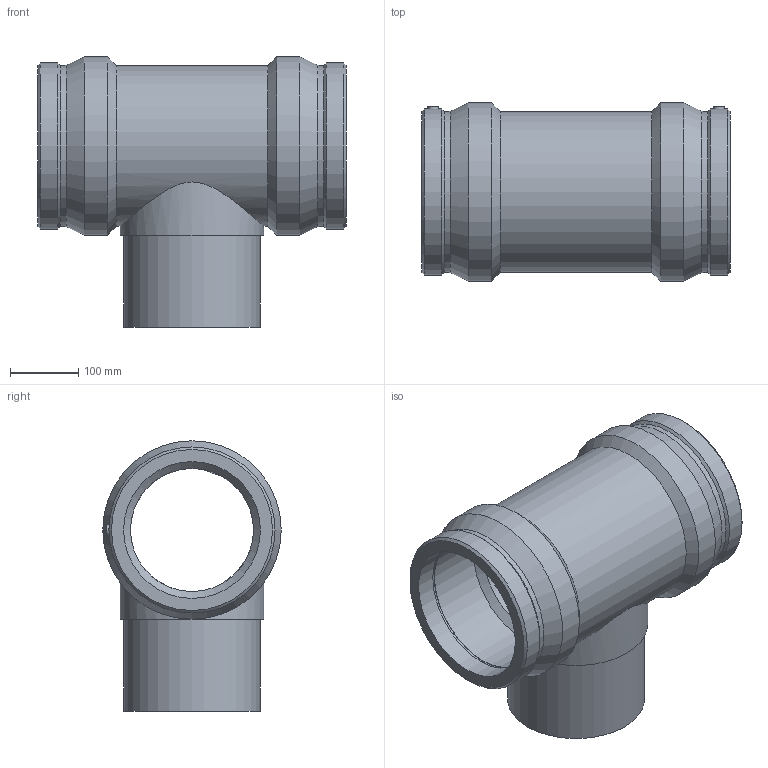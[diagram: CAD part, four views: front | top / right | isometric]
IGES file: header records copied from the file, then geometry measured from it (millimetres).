
Global section: file name: 490404200.ipt; native system: Autodesk Inventor 2015; preprocessor: unknown; author: KIM; date: 20171106.093619; units: millimetre
Bounding box: 451 x 261 x 395.5 mm (x, y, z)
Volume: 9340540.9 mm3; surface area: 825266.8 mm2
Topology: 1 solids, 1 shells, 45 faces, 101 edges, 66 vertices
Faces by surface type: plane 12, revolution 12, cylinder 11, cone 10
Full cylindrical faces by diameter (mm): 4 x2, 200 x1, 210 x1, 234.9 x1, 235.448 x2, 242.73 x2, 261 x2
